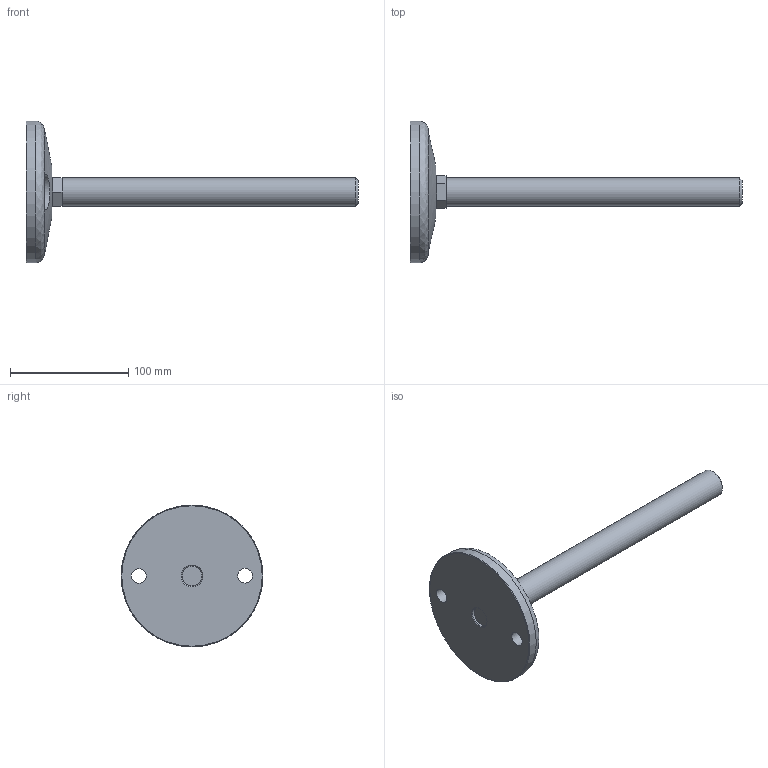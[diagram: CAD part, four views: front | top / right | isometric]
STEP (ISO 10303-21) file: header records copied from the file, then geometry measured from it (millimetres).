
FILE_DESCRIPTION(('STEP AP203'),'2;1');
FILE_NAME('12382.stp','2014-06-05T14:27:32',(''),(''),'2008.1.107','THINKDESIGN','');
FILE_SCHEMA(('CONFIG_CONTROL_DESIGN'));
Length unit declared in the file: millimetre
Bounding box: 281 x 120 x 120 mm (x, y, z)
Volume: 312218.4 mm3; surface area: 51993.5 mm2
Topology: 4 solids, 4 shells, 43 faces, 101 edges, 67 vertices
Faces by surface type: bspline 19, plane 16, cylinder 8
Full cylindrical faces by diameter (mm): 12.5 x2, 17.5 x2, 24 x1, 120 x1
Entity records: 2221 total; most frequent: CARTESIAN_POINT 1056, ORIENTED_EDGE 200, DIRECTION 192, EDGE_CURVE 100, AXIS2_PLACEMENT_3D 69, VERTEX_POINT 65, VECTOR 54, LINE 54
